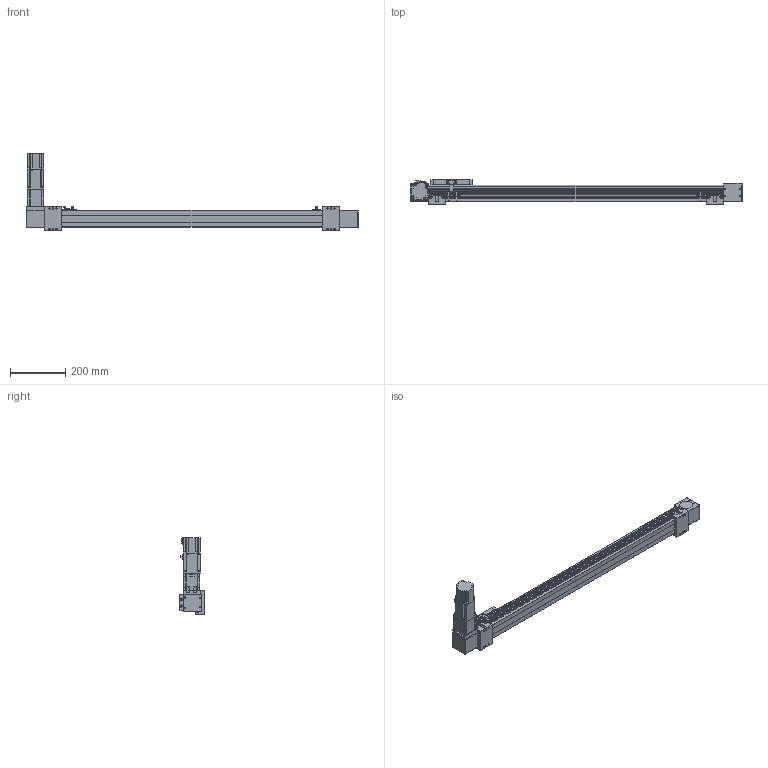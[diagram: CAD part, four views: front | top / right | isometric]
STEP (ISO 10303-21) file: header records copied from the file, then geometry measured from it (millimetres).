
FILE_DESCRIPTION(/* description */ ('STEP AP203'),/* implementation_level */ '2;1');
FILE_NAME(/* name */ 'SK60-P13-S900-BL-T40-C1-N(0)',/* time_stamp */ '2023-04-06T03:36:26+02:00',/* author */ ('License CC BY-ND 4.0'),/* organization */ ('CADENAS'),/* preprocessor_version */ 'ST-DEVELOPER v19.3',/* originating_system */ 'PARTsolutions',/* authorisation */ ' ');
FILE_SCHEMA (('CONFIG_CONTROL_DESIGN'));
Length unit declared in the file: millimetre
Products named in the file (11): SK60-P13-S900-BL-T40-C1-N(0); PSC140-sensor; SK60-S450_seat; SK60-S450-BL-C1_slider; SK60_body3; SK60_body6; SK60-BL_body2; T40-p1; SK60_body5; SK60_body4; SK60-S900-BL-C1_body
Assembly tree (17 placements, depth 2):
  SK60-P13-S900-BL-T40-C1-N(0)
    PSC140-sensor  x3
    SK60-S450_seat  x2
    SK60-S450-BL-C1_slider
    SK60_body3  x3
    SK60_body6  x2
    SK60-BL_body2  x2
    T40-p1
    SK60_body5
    SK60_body4
    SK60-S900-BL-C1_body
Bounding box: 1200 x 90 x 278.2 mm (x, y, z)
Volume: 4658938.8 mm3; surface area: 632925.3 mm2
Topology: 17 solids, 21 shells, 834 faces, 2109 edges, 1394 vertices
Faces by surface type: plane 544, cylinder 266, cone 22, torus 2
Full cylindrical faces by diameter (mm): 2.8 x3, 3.3 x4, 4.2 x8, 4.5 x26, 4.6 x3, 4.917 x16, 5 x2, 5.478 x4, 5.5 x19, 6.5 x4, 8 x4, 8.5 x4, 9.988 x4, 10 x8, 13.556 x1, 14 x1, 14.586 x1, 19.692 x1, 38.432 x2, 43 x1, 44 x3, 47 x2, 50 x2
Entity records: 19371 total; most frequent: DIRECTION 3292, CARTESIAN_POINT 3289, ORIENTED_EDGE 3050, EDGE_CURVE 1525, AXIS2_PLACEMENT_3D 1100, LINE 1092, VECTOR 1092, VERTEX_POINT 1077
